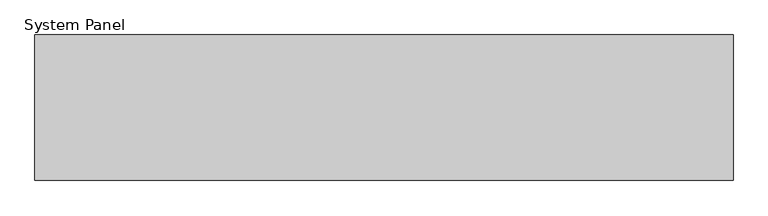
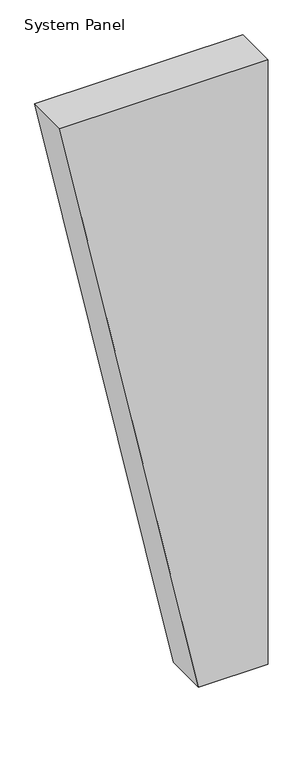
"""IFC4 building model written with IfcOpenShell, lengths in millimetres: plate geometry, System Panel : Equitilt_250mm_Plain_Surfmist."""

from ifc_helpers import new_model, si_unit, frame, origin, place, context, project, spatial, polyline, outline, extrude, source, transform, mapped, element, save


def system_panel_145727ce(model_context):
    return source(origin(), model_context, "Body", "SweptSolid", [
        extrude(outline(polyline([(0.0, 200.0), (0.0, 600.0), (3679.9704237, 600.0), (3679.9704237, -600.0), (0.0, 200.0)])), frame((0.0, -250.0, 0.0), z_axis=(0.0, 1.0, 0.0), x_axis=(0.0, 0.0, 1.0)), (0.0, 0.0, 1.0), 250.0),
    ])


if __name__ == "__main__":
    model = new_model("IFC4")
    model_context = context("Model", 3, world=origin())
    ifc_project = project(units=[si_unit("LENGTHUNIT", "METRE", prefix="MILLI")], contexts=[model_context])
    site = spatial("IfcSite", under=ifc_project)
    building = spatial("IfcBuilding", under=site)
    placement = place(None, origin())
    system_panel_shape = system_panel_145727ce(model_context)
    element("IfcPlate", 1, ObjectType="System Panel : Equitilt_250mm_Plain_Surfmist", at=placement, inside=building, context=model_context, shape_type="MappedRepresentation", body=[
        mapped(system_panel_shape, transform((0.0, 0.0, 0.0), x_axis=(1.0, 0.0, 0.0), y_axis=(0.0, 1.0, 0.0), z_axis=(0.0, 0.0, 1.0))),
    ])
    save(model, "model.ifc")
